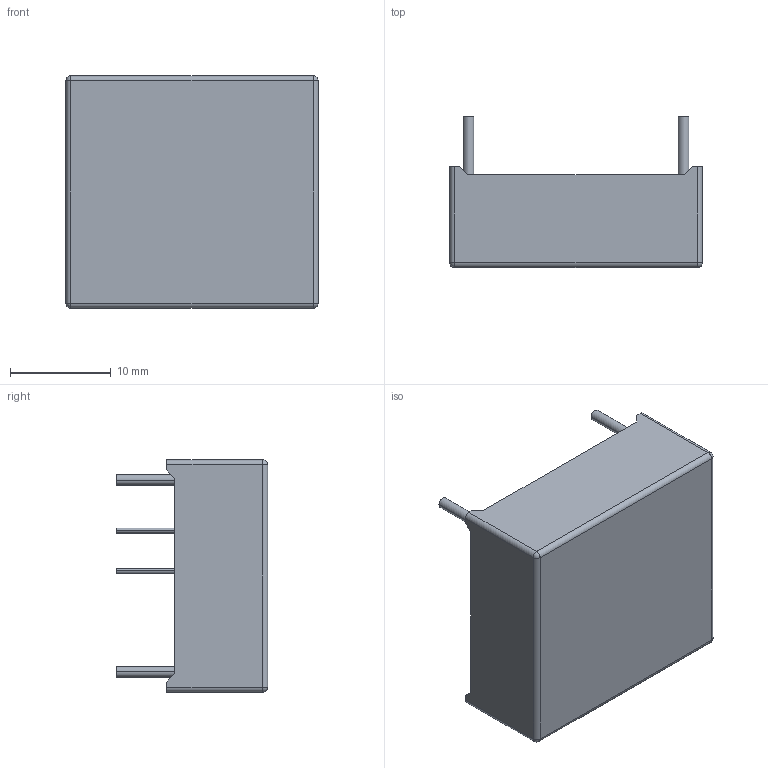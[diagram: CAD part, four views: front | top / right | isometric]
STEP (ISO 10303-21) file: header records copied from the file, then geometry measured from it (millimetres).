
FILE_DESCRIPTION((''),'2;1');
FILE_NAME('TFMOV20S151L-3-001','2020-08-11T',('SET-01114'),(''),'PRO/ENGINEER BY PARAMETRIC TECHNOLOGY CORPORATION, 2012310','PRO/ENGINEER BY PARAMETRIC TECHNOLOGY CORPORATION, 2012310','');
FILE_SCHEMA(('CONFIG_CONTROL_DESIGN','SHAPE_APPEARANCE_LAYERS_GROUPS'));
Length unit declared in the file: millimetre
Products named in the file (1): TFMOV20S151L-3-001
Bounding box: 25 x 15 x 23 mm (x, y, z)
Volume: 1838.4 mm3; surface area: 3697.1 mm2
Topology: 1 solids, 2 shells, 111 faces, 282 edges, 172 vertices
Faces by surface type: plane 61, cylinder 34, sphere 16
Entity records: 4123 total; most frequent: CARTESIAN_POINT 606, DIRECTION 568, ORIENTED_EDGE 532, PRESENTATION_STYLE_ASSIGNMENT 267, STYLED_ITEM 267, CURVE_STYLE 266, EDGE_CURVE 266, AXIS2_PLACEMENT_3D 195
